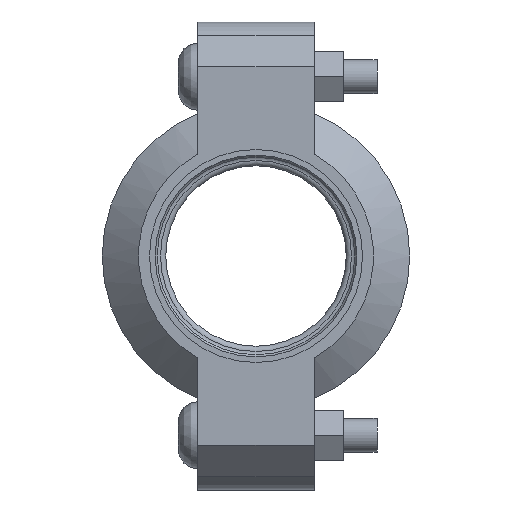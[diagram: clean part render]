
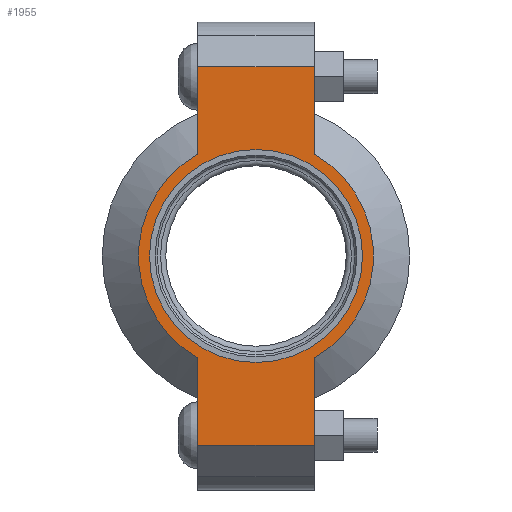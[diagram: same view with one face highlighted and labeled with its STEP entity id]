
A CAD part, left-side view. The second image highlights one B-rep face of the part: STEP entity #1955.
In plain terms, the highlighted planar face has unit normal (-1, 0, 0) as drawn and (0, 0, 1) by its records, which use the part's own axes.
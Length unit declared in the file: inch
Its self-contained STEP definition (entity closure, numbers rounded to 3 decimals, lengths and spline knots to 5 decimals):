
#144=LINE('',#3465,#241);
#152=LINE('',#3501,#249);
#159=LINE('',#3522,#256);
#168=LINE('',#3554,#265);
#169=LINE('',#3558,#266);
#170=LINE('',#3560,#267);
#241=VECTOR('',#2825,0.3937);
#249=VECTOR('',#2841,0.3937);
#256=VECTOR('',#2860,0.3937);
#265=VECTOR('',#2885,0.3937);
#266=VECTOR('',#2890,0.3937);
#267=VECTOR('',#2891,0.3937);
#323=FACE_BOUND('',#573,.T.);
#367=PLANE('',#2294);
#455=FACE_OUTER_BOUND('',#572,.T.);
#572=EDGE_LOOP('',(#1676,#1677,#1678,#1679,#1680,#1681,#1682,#1683));
#573=EDGE_LOOP('',(#1684));
#745=CIRCLE('',#2295,1.31);
#746=CIRCLE('',#2296,1.31);
#747=CIRCLE('',#2297,1.1875);
#909=VERTEX_POINT('',#3462);
#910=VERTEX_POINT('',#3464);
#921=VERTEX_POINT('',#3496);
#922=VERTEX_POINT('',#3500);
#929=VERTEX_POINT('',#3519);
#930=VERTEX_POINT('',#3521);
#940=VERTEX_POINT('',#3557);
#941=VERTEX_POINT('',#3559);
#942=VERTEX_POINT('',#3562);
#1154=EDGE_CURVE('',#910,#909,#144,.T.);
#1168=EDGE_CURVE('',#922,#921,#152,.T.);
#1178=EDGE_CURVE('',#930,#929,#159,.T.);
#1193=EDGE_CURVE('',#922,#909,#168,.T.);
#1194=EDGE_CURVE('',#921,#930,#745,.T.);
#1195=EDGE_CURVE('',#940,#929,#169,.T.);
#1196=EDGE_CURVE('',#940,#941,#170,.T.);
#1197=EDGE_CURVE('',#941,#910,#746,.T.);
#1198=EDGE_CURVE('',#942,#942,#747,.T.);
#1676=ORIENTED_EDGE('',*,*,#1193,.F.);
#1677=ORIENTED_EDGE('',*,*,#1168,.T.);
#1678=ORIENTED_EDGE('',*,*,#1194,.T.);
#1679=ORIENTED_EDGE('',*,*,#1178,.T.);
#1680=ORIENTED_EDGE('',*,*,#1195,.F.);
#1681=ORIENTED_EDGE('',*,*,#1196,.T.);
#1682=ORIENTED_EDGE('',*,*,#1197,.T.);
#1683=ORIENTED_EDGE('',*,*,#1154,.T.);
#1684=ORIENTED_EDGE('',*,*,#1198,.T.);
#1955=ADVANCED_FACE('',(#455,#323),#367,.T.);
#2294=AXIS2_PLACEMENT_3D('',#3555,#2886,#2887);
#2295=AXIS2_PLACEMENT_3D('',#3556,#2888,#2889);
#2296=AXIS2_PLACEMENT_3D('',#3561,#2892,#2893);
#2297=AXIS2_PLACEMENT_3D('',#3563,#2894,#2895);
#2825=DIRECTION('',(1.,0.,0.));
#2841=DIRECTION('',(-1.,0.,0.));
#2860=DIRECTION('',(-1.,0.,0.));
#2885=DIRECTION('',(0.,-1.,0.));
#2886=DIRECTION('center_axis',(0.,0.,1.));
#2887=DIRECTION('ref_axis',(-1.,0.,0.));
#2888=DIRECTION('center_axis',(0.,0.,1.));
#2889=DIRECTION('ref_axis',(1.,0.,0.));
#2890=DIRECTION('',(0.,1.,0.));
#2891=DIRECTION('',(1.,0.,0.));
#2892=DIRECTION('center_axis',(0.,0.,1.));
#2893=DIRECTION('ref_axis',(1.,0.,0.));
#2894=DIRECTION('center_axis',(0.,0.,-1.));
#2895=DIRECTION('ref_axis',(1.,0.,0.));
#3462=CARTESIAN_POINT('',(2.11,-0.65,0.94));
#3464=CARTESIAN_POINT('',(1.13737,-0.65,0.94));
#3465=CARTESIAN_POINT('',(2.61,-0.65,0.94));
#3496=CARTESIAN_POINT('',(1.13737,0.65,0.94));
#3500=CARTESIAN_POINT('',(2.11,0.65,0.94));
#3501=CARTESIAN_POINT('',(-2.61,0.65,0.94));
#3519=CARTESIAN_POINT('',(-2.11,0.65,0.94));
#3521=CARTESIAN_POINT('',(-1.13737,0.65,0.94));
#3522=CARTESIAN_POINT('',(-2.61,0.65,0.94));
#3554=CARTESIAN_POINT('',(2.11,-0.325,0.94));
#3555=CARTESIAN_POINT('Origin',(0.,0.,
0.94));
#3556=CARTESIAN_POINT('Origin',(0.,0.,0.94));
#3557=CARTESIAN_POINT('',(-2.11,-0.65,0.94));
#3558=CARTESIAN_POINT('',(-2.11,0.325,0.94));
#3559=CARTESIAN_POINT('',(-1.13737,-0.65,0.94));
#3560=CARTESIAN_POINT('',(2.61,-0.65,0.94));
#3561=CARTESIAN_POINT('Origin',(0.,0.,0.94));
#3562=CARTESIAN_POINT('',(-1.1875,0.,0.94));
#3563=CARTESIAN_POINT('Origin',(0.,0.,0.94));
